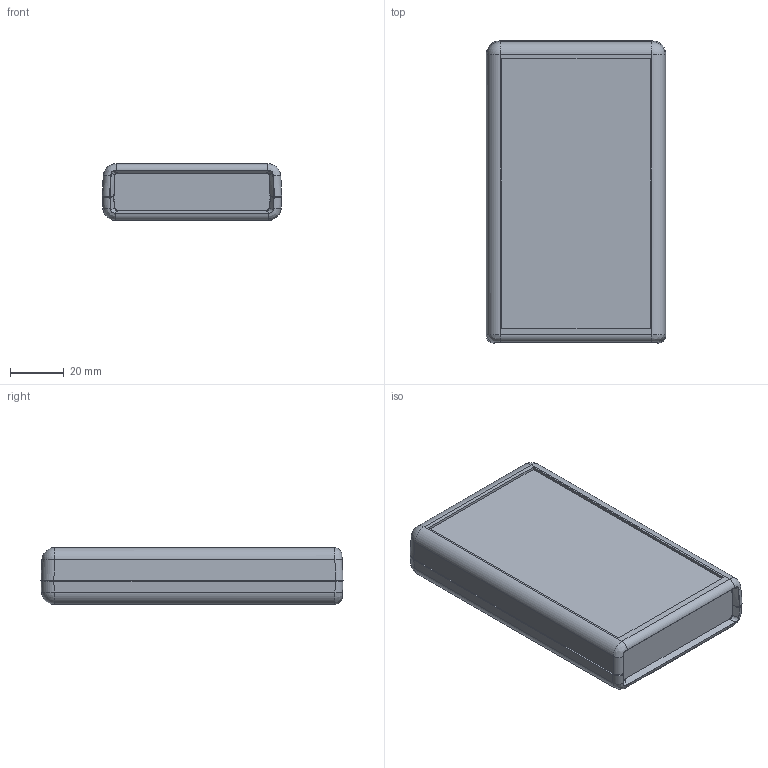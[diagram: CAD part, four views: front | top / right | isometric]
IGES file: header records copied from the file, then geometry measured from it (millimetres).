
Global section: file name: 1593T.iam; native system: Autodesk Inventor 2016; preprocessor: unknown; author: MBeerman; date: 20160425.153556; units: millimetre
Bounding box: 66.5 x 112 x 21 mm (x, y, z)
Volume: 59282.3 mm3; surface area: 55683.4 mm2
Topology: 9 solids, 9 shells, 755 faces, 2018 edges, 1338 vertices
Faces by surface type: plane 435, revolution 113, bspline 94, cylinder 75, cone 26, sphere 12
Full cylindrical faces by diameter (mm): 2.845 x4
